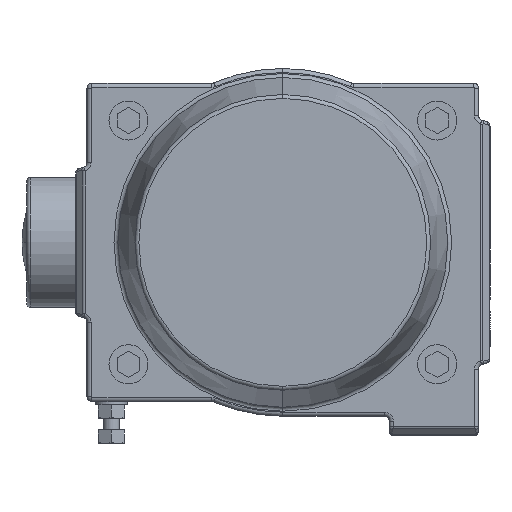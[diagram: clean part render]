
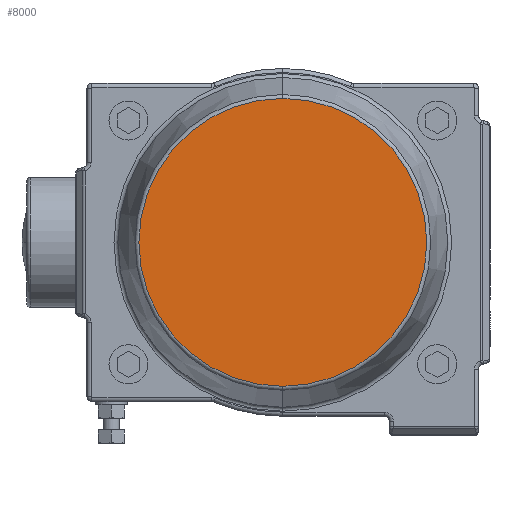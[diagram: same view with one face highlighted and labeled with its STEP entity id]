
A CAD part, left-side view. The second image highlights one B-rep face of the part: STEP entity #8000.
In plain terms, the highlighted planar face has unit normal (-1, 0, 0).
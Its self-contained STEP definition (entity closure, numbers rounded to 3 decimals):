
#153 = ORIENTED_EDGE ( 'NONE', *, *, #1636, .T. ) ;
#392 = DIRECTION ( 'NONE',  ( -1., 0., 0. ) ) ;
#498 = AXIS2_PLACEMENT_3D ( 'NONE', #3252, #3431, #13540 ) ;
#1636 = EDGE_CURVE ( 'NONE', #10534, #11609, #5832, .T. ) ;
#2993 = DIRECTION ( 'NONE',  ( 0., 0., 1. ) ) ;
#3252 = CARTESIAN_POINT ( 'NONE',  ( -268., 0., 0. ) ) ;
#3431 = DIRECTION ( 'NONE',  ( -1., 0., 0. ) ) ;
#3680 = DIRECTION ( 'NONE',  ( -1., 0., 0. ) ) ;
#4759 = CARTESIAN_POINT ( 'NONE',  ( -268., 0., 88.592 ) ) ;
#5481 = AXIS2_PLACEMENT_3D ( 'NONE', #6311, #3680, #6251 ) ;
#5832 = CIRCLE ( 'NONE', #498, 88.592 ) ;
#6251 = DIRECTION ( 'NONE',  ( 0., 0., 1. ) ) ;
#6311 = CARTESIAN_POINT ( 'NONE',  ( -268., 0., 0. ) ) ;
#6882 = CARTESIAN_POINT ( 'NONE',  ( -268., 0., -88.592 ) ) ;
#8000 = ADVANCED_FACE ( 'NONE', ( #15359 ), #15839, .T. ) ;
#8084 = CARTESIAN_POINT ( 'NONE',  ( -268., 0., 0. ) ) ;
#8706 = CIRCLE ( 'NONE', #5481, 88.592 ) ;
#9160 = EDGE_LOOP ( 'NONE', ( #12669, #153 ) ) ;
#10534 = VERTEX_POINT ( 'NONE', #6882 ) ;
#11399 = AXIS2_PLACEMENT_3D ( 'NONE', #8084, #392, #2993 ) ;
#11609 = VERTEX_POINT ( 'NONE', #4759 ) ;
#12669 = ORIENTED_EDGE ( 'NONE', *, *, #16357, .T. ) ;
#13540 = DIRECTION ( 'NONE',  ( 0., 0., 1. ) ) ;
#15359 = FACE_OUTER_BOUND ( 'NONE', #9160, .T. ) ;
#15839 = PLANE ( 'NONE',  #11399 ) ;
#16357 = EDGE_CURVE ( 'NONE', #11609, #10534, #8706, .T. ) ;
